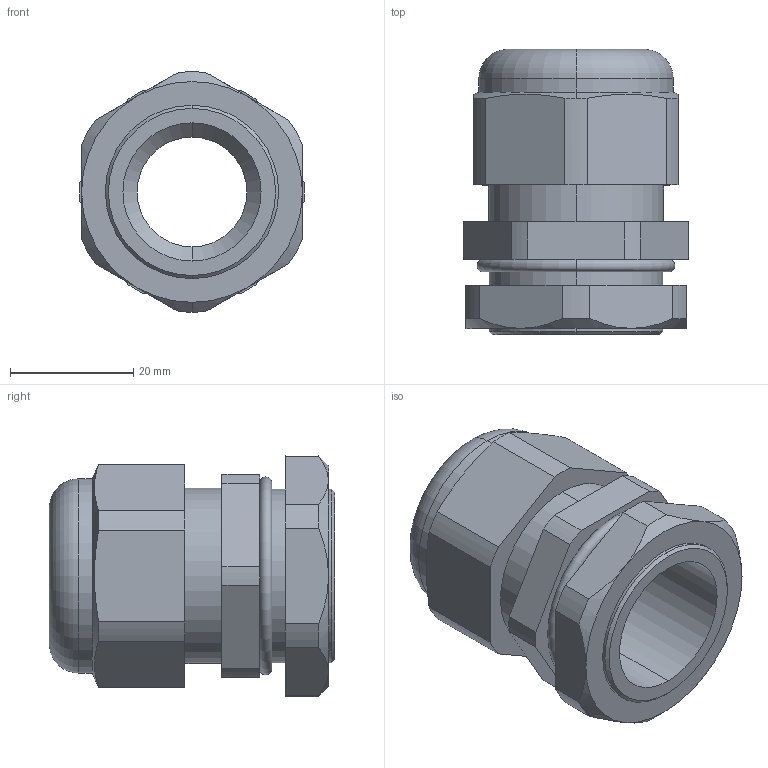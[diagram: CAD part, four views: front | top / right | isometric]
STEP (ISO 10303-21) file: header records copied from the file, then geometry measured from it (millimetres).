
FILE_DESCRIPTION (( 'STEP AP203' ), '1' );
FILE_NAME ('CH-PG21.STEP', '2018-02-07T14:36:34', ( '' ), ( '' ), 'SwSTEP 2.0', 'SolidWorks 2012', '' );
FILE_SCHEMA (( 'CONFIG_CONTROL_DESIGN' ));
Length unit declared in the file: millimetre
Products named in the file (1): CH-PG21
Bounding box: 36.49 x 46.3 x 38.99 mm (x, y, z)
Volume: 24281.6 mm3; surface area: 10600.8 mm2
Topology: 1 solids, 1 shells, 78 faces, 189 edges, 118 vertices
Faces by surface type: cylinder 34, plane 25, cone 15, torus 4
Entity records: 2482 total; most frequent: CARTESIAN_POINT 536, DIRECTION 415, ORIENTED_EDGE 378, EDGE_CURVE 189, AXIS2_PLACEMENT_3D 165, VERTEX_POINT 118, CIRCLE 86, VECTOR 85
